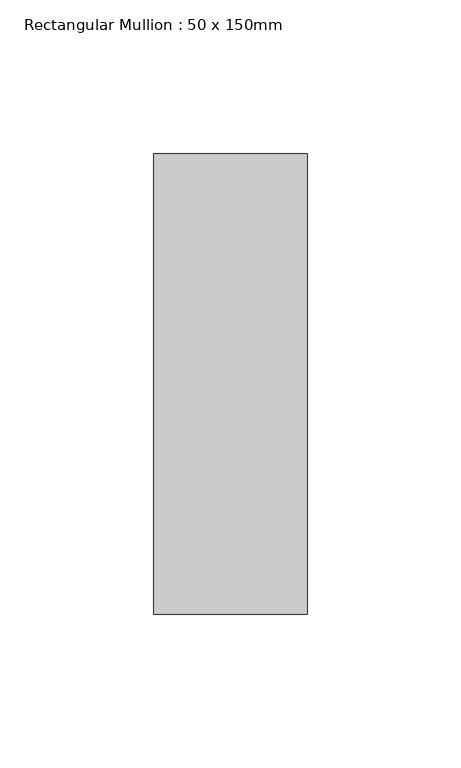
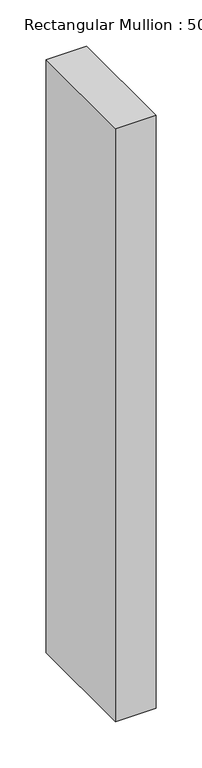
"""IFC4 building model written with IfcOpenShell, lengths in millimetres: member geometry, Rectangular Mullion : 50 x 150mm."""

from ifc_helpers import new_model, si_unit, frame, origin, place, context, project, spatial, polyline, outline, extrude, source, transform, mapped, element, save


def rectangular_mullion_50_x_150mm_ee81d58a(model_context):
    return source(origin(), model_context, "Body", "SweptSolid", [
        extrude(outline(polyline([(0.0, 75.0), (0.0, -75.0), (-50.0, -75.0), (-50.0, 75.0), (0.0, 75.0)])), frame((0.0, 0.0, -780.7149096), z_axis=(0.0, 0.0, 1.0), x_axis=(1.0, 0.0, 0.0)), (0.0, 0.0, 1.0), 780.7149096),
    ])


if __name__ == "__main__":
    model = new_model("IFC4")
    model_context = context("Model", 3, world=origin())
    ifc_project = project(units=[si_unit("LENGTHUNIT", "METRE", prefix="MILLI")], contexts=[model_context])
    site = spatial("IfcSite", under=ifc_project)
    building = spatial("IfcBuilding", under=site)
    placement = place(None, origin())
    rectangular_mullion_50_x_150mm_shape = rectangular_mullion_50_x_150mm_ee81d58a(model_context)
    element("IfcMember", 1, ObjectType="Rectangular Mullion : 50 x 150mm", at=placement, inside=building, context=model_context, shape_type="MappedRepresentation", body=[
        mapped(rectangular_mullion_50_x_150mm_shape, transform((0.0, 0.0, 0.0), x_axis=(1.0, 0.0, 0.0), y_axis=(0.0, 1.0, 0.0), z_axis=(0.0, 0.0, 1.0))),
    ])
    save(model, "model.ifc")
